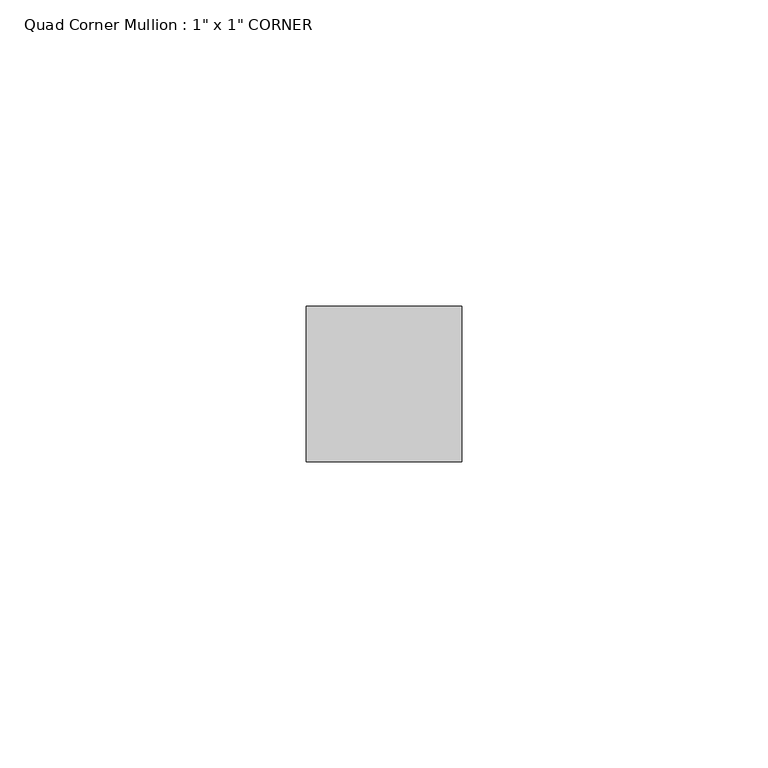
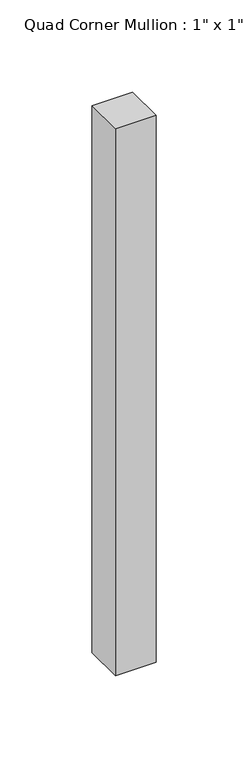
"""IFC4 building model written with IfcOpenShell, lengths in millimetres: member geometry."""

from ifc_helpers import new_model, si_unit, frame, origin, place, context, project, spatial, polyline, outline, extrude, source, transform, mapped, element, save


def member_cce255ce(model_context):
    return source(origin(), model_context, "Body", "SweptSolid", [
        extrude(outline(polyline([(0.0, 25.4), (0.0, 0.0), (-25.4, 0.0), (-25.4, 25.4), (0.0, 25.4)])), frame((0.0, 0.0, -361.95), z_axis=(0.0, 0.0, 1.0), x_axis=(1.0, 0.0, 0.0)), (0.0, 0.0, 1.0), 361.95),
    ])


if __name__ == "__main__":
    model = new_model("IFC4")
    model_context = context("Model", 3, world=origin())
    ifc_project = project(units=[si_unit("LENGTHUNIT", "METRE", prefix="MILLI")], contexts=[model_context])
    site = spatial("IfcSite", under=ifc_project)
    building = spatial("IfcBuilding", under=site)
    placement = place(None, origin())
    member_shape = member_cce255ce(model_context)
    element("IfcMember", 1, ObjectType="Quad Corner Mullion : 1\" x 1\" CORNER", at=placement, inside=building, context=model_context, shape_type="MappedRepresentation", body=[
        mapped(member_shape, transform((0.0, 0.0, 0.0), x_axis=(1.0, 0.0, 0.0), y_axis=(0.0, 1.0, 0.0), z_axis=(0.0, 0.0, 1.0))),
    ])
    save(model, "model.ifc")
